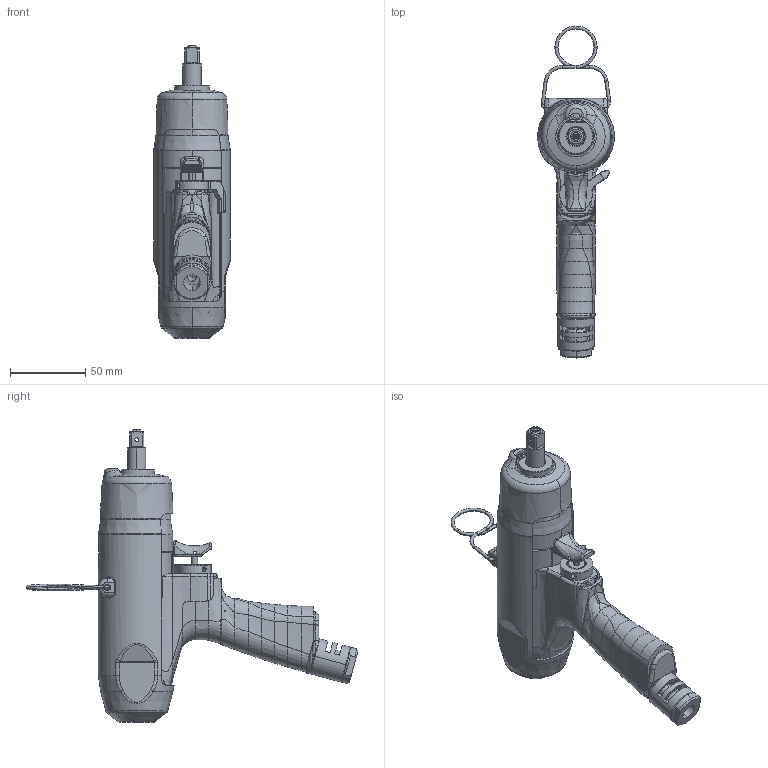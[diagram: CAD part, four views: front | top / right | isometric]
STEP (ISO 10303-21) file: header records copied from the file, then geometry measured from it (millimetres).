
FILE_DESCRIPTION((''),'2;1');
FILE_NAME('6151720880_WITH_COVER_AND_HANGE','2014-11-18T',('greextsd'),(''),'PRO/ENGINEER BY PARAMETRIC TECHNOLOGY CORPORATION, 2014200','PRO/ENGINEER BY PARAMETRIC TECHNOLOGY CORPORATION, 2014200','');
FILE_SCHEMA(('CONFIG_CONTROL_DESIGN'));
Products named in the file (1): 6151720880_WITH_COVER_AND_HANGE
Bounding box: 50.99 x 220.74 x 194.3 mm (x, y, z)
Volume: 216560 mm3; surface area: 122708.2 mm2
Topology: 3 solids, 16 shells, 1194 faces, 2885 edges, 1761 vertices
Faces by surface type: plane 356, cylinder 350, bspline 268, cone 139, torus 72, sphere 8, extrusion 1
Entity records: 59413 total; most frequent: CARTESIAN_POINT 33533, ORIENTED_EDGE 5730, DIRECTION 4798, EDGE_CURVE 2874, AXIS2_PLACEMENT_3D 1908, VERTEX_POINT 1761, EDGE_LOOP 1312, FACE_OUTER_BOUND 1194
